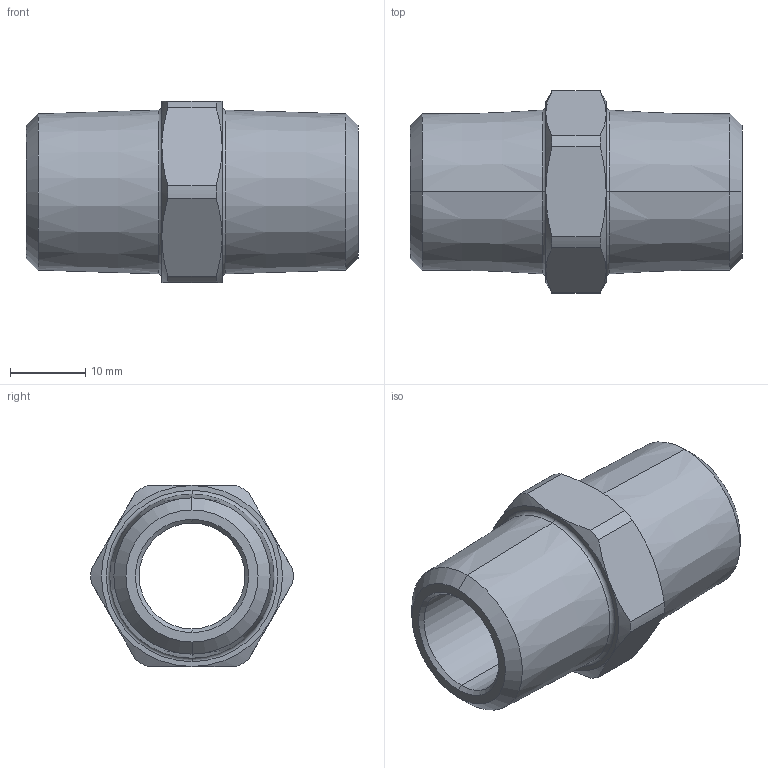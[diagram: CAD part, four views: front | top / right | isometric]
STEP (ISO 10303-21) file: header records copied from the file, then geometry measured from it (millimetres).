
FILE_DESCRIPTION (( 'STEP AP203' ), '1' );
FILE_NAME ('ﾍﾂﾍ1Nﾍ.STEP', '2019-06-05T12:26:38', ( '' ), ( '' ), 'SwSTEP 2.0', 'SolidWorks 2012', '' );
FILE_SCHEMA (( 'CONFIG_CONTROL_DESIGN' ));
Length unit declared in the file: millimetre
Products named in the file (1): ﾍﾂﾍ1Nﾍ
Bounding box: 44 x 26.79 x 24 mm (x, y, z)
Volume: 9407.7 mm3; surface area: 5562.6 mm2
Topology: 1 solids, 1 shells, 52 faces, 114 edges, 68 vertices
Faces by surface type: cone 24, cylinder 12, plane 12, torus 4
Entity records: 1611 total; most frequent: CARTESIAN_POINT 387, DIRECTION 256, ORIENTED_EDGE 228, EDGE_CURVE 114, AXIS2_PLACEMENT_3D 113, VERTEX_POINT 68, CIRCLE 60, EDGE_LOOP 58
